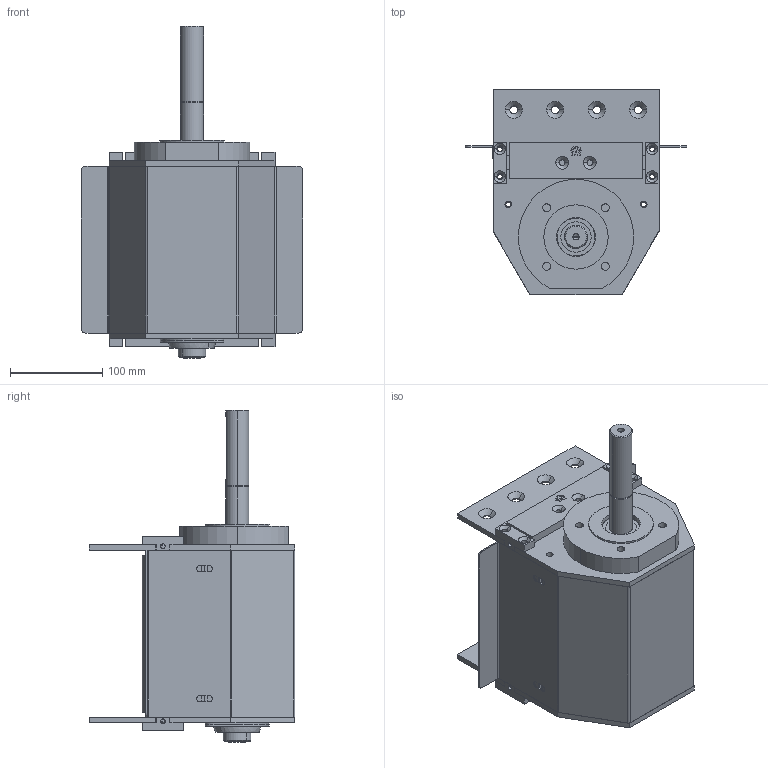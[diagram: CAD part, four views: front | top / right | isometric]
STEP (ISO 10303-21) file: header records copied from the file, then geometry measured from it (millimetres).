
FILE_DESCRIPTION (( 'STEP AP203' ), '1' );
FILE_NAME ('084.050.KCS.49.150.STEP', '2019-07-29T13:51:45', ( '' ), ( '' ), 'SwSTEP 2.0', 'SolidWorks 2018', '' );
FILE_SCHEMA (( 'CONFIG_CONTROL_DESIGN' ));
Length unit declared in the file: millimetre
Products named in the file (15): 084.802.012_Solo centrale; 084.810.003; TRAVERSA PER CARTER^084.050.KCS.49.150_Default<A macchina>; 084.817.007; 084.050.KCS.49.150; 084.817.005_Default<A macchina>; 084.817.008; CUSCINETTI A SFERE_6004-2RS; 084.802.003; 084.802.021; 084.802.011; 084.817.038; 084.802.004-1; 084.802.020; 084.817.006
Assembly tree (26 placements, depth 2):
  084.050.KCS.49.150
    084.817.008  x2
    084.817.005_Default<A macchina>
    084.817.006
    084.817.007  x2
    TRAVERSA PER CARTER^084.050.KCS.49.150_Default<A macchina>  x2
    084.802.021
    084.810.003  x2
    084.802.004-1  x4
    084.802.020
    084.802.003  x2
    CUSCINETTI A SFERE_6004-2RS  x4
    084.817.038
    084.802.011
    084.802.012_Solo centrale  x2
Bounding box: 240 x 223 x 360 mm (x, y, z)
Volume: 1947263.9 mm3; surface area: 940623.7 mm2
Topology: 28 solids, 28 shells, 1163 faces, 2953 edges, 1902 vertices
Faces by surface type: plane 547, cylinder 398, cone 128, torus 80, sphere 10
Entity records: 23370 total; most frequent: DIRECTION 3931, CARTESIAN_POINT 3765, ORIENTED_EDGE 3506, EDGE_CURVE 1753, AXIS2_PLACEMENT_3D 1459, VERTEX_POINT 1129, VECTOR 1013, LINE 1013
